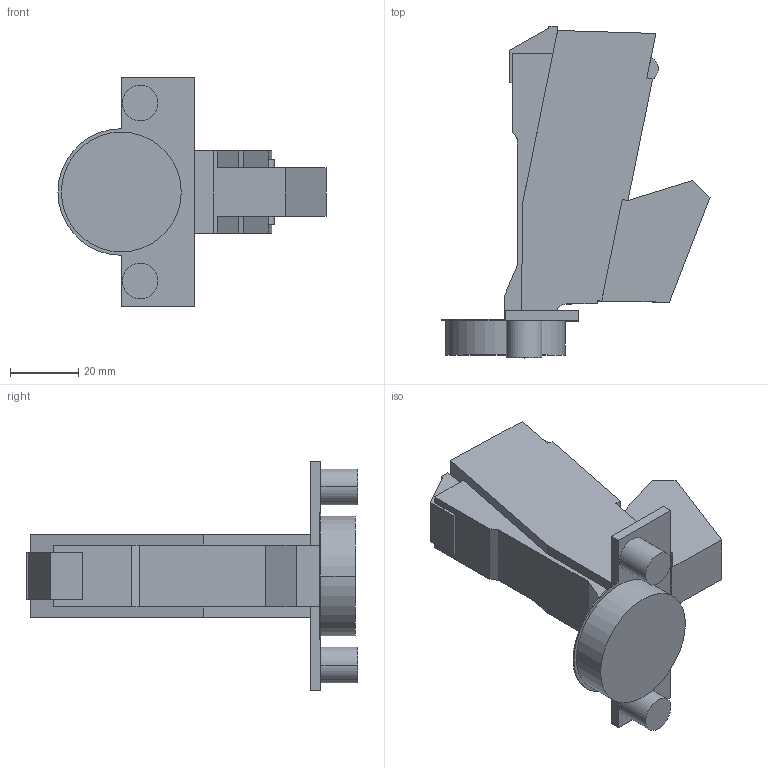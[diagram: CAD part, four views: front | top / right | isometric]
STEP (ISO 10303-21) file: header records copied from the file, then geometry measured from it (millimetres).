
FILE_DESCRIPTION (( 'STEP AP214' ), '1' );
FILE_NAME ('Scharnier TS Click-on 160° H_BB, K00_Dübel - Neu -.step', '2019-09-17T09:21:14', ( '' ), ( '' ), 'SwSTEP 2.0', 'SolidWorks 2019', '' );
FILE_SCHEMA (( 'AUTOMOTIVE_DESIGN' ));
Length unit declared in the file: millimetre
Products named in the file (1): Scharnier TS Click-on 160° H_BB, K00_Dübel - Neu -
Bounding box: 78.27 x 96.89 x 67 mm (x, y, z)
Volume: 89894.3 mm3; surface area: 18987.3 mm2
Topology: 1 solids, 1 shells, 67 faces, 176 edges, 116 vertices
Faces by surface type: plane 54, cylinder 13
Entity records: 2078 total; most frequent: CARTESIAN_POINT 360, ORIENTED_EDGE 352, DIRECTION 338, EDGE_CURVE 176, VECTOR 150, LINE 150, VERTEX_POINT 116, AXIS2_PLACEMENT_3D 94
